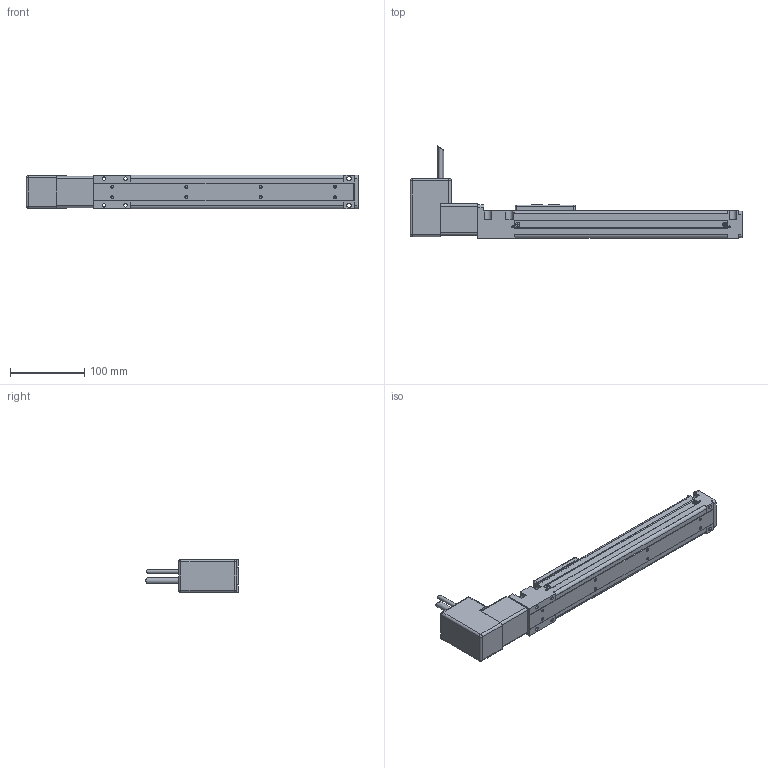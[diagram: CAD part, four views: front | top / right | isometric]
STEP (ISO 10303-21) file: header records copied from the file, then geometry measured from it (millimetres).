
FILE_DESCRIPTION(/* description */ ('Alibre Inc.'),/* implementation_level */ '2;1');
FILE_NAME(/* name */ 'export0',/* time_stamp */ '2010-03-31T14:56:43-04:00',/* author */ (''),/* organization */ (''),/* preprocessor_version */ 'ST-DEVELOPER v10',/* originating_system */ 'Alibre',/* authorisation */ '');
FILE_SCHEMA (('CONFIG_CONTROL_DESIGN'));
Length unit declared in the file: millimetre
Products named in the file (4): 1; 2; ID_1
Bounding box: 447 x 124.17 x 45 mm (x, y, z)
Volume: 461651.3 mm3; surface area: 172385.8 mm2
Topology: 3 solids, 3 shells, 697 faces, 1815 edges, 1124 vertices
Faces by surface type: plane 430, cylinder 155, cone 98, torus 8, sphere 6
Full cylindrical faces by diameter (mm): 2.459 x3, 2.5 x1, 5 x1, 5.6 x1, 8.5 x1, 22 x1
Entity records: 20866 total; most frequent: CARTESIAN_POINT 3750, ORIENTED_EDGE 3540, DIRECTION 3125, EDGE_CURVE 1770, VECTOR 1329, LINE 1329, VERTEX_POINT 1121, AXIS2_PLACEMENT_3D 1116
